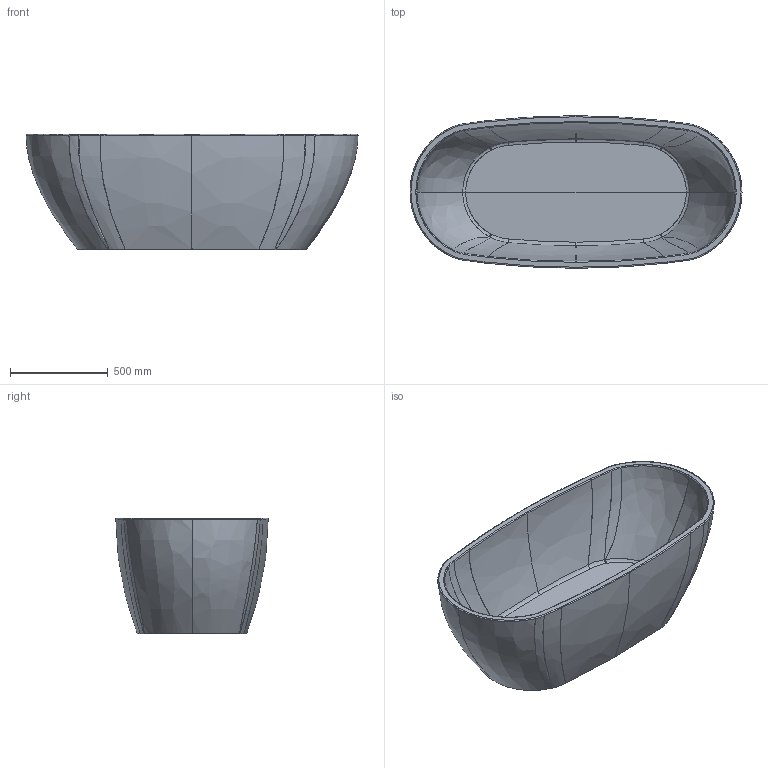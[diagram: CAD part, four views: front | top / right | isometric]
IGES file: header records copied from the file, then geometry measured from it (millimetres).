
Start section: START RECORD GO HERE.
Global section: file name: 7320_3D.igs; native system: DASSAULT SYSTEMES CATIA V5 R19 - www.3ds.com; preprocessor: CATIA Version 5 Release 19 SP 5 ; author: gioge; organization: LAPTOP-G94B6G74; date: 20201024.130351; units: millimetre
Bounding box: 1699.95 x 779.98 x 590 mm (x, y, z)
Surface area: 5307886.3 mm2 (no closed solid volume)
Topology: 0 solids, 0 shells, 85 faces, 384 edges, 380 vertices
Faces by surface type: bspline 80, plane 5
